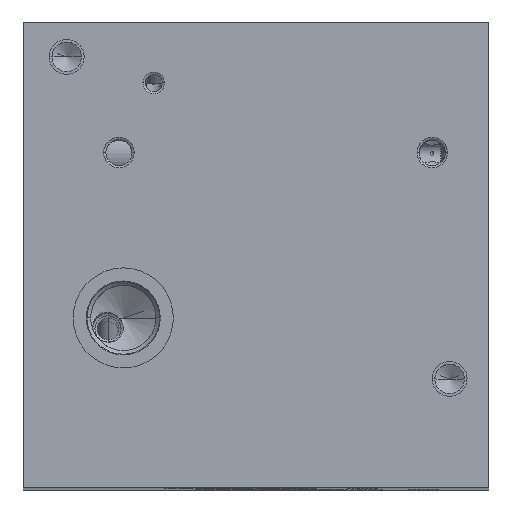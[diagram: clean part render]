
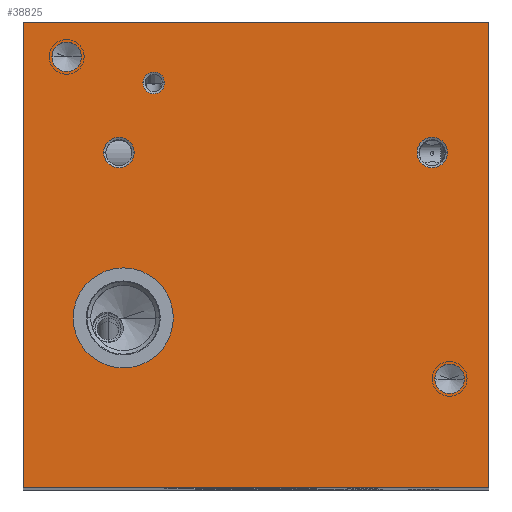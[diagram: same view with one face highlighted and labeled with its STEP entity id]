
A CAD part, top view. The second image highlights one B-rep face of the part: STEP entity #38825.
In plain terms, the highlighted planar face has unit normal (0, 0, 1).
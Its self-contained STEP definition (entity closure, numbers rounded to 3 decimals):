
#1391=DIRECTION('',(1.,0.,0.));
#1392=VECTOR('',#1391,107.);
#1393=CARTESIAN_POINT('',(0.,0.,310.));
#1394=LINE('',#1393,#1392);
#1398=DIRECTION('',(0.,-1.,0.));
#1399=VECTOR('',#1398,107.);
#1400=CARTESIAN_POINT('',(0.,107.,310.));
#1401=LINE('',#1400,#1399);
#1405=DIRECTION('',(-1.,0.,0.));
#1406=VECTOR('',#1405,107.);
#1407=CARTESIAN_POINT('',(107.,107.,310.));
#1408=LINE('',#1407,#1406);
#1412=DIRECTION('',(0.,1.,0.));
#1413=VECTOR('',#1412,107.);
#1414=CARTESIAN_POINT('',(107.,0.,310.));
#1415=LINE('',#1414,#1413);
#1419=CARTESIAN_POINT('',(94.,77.,310.));
#1420=DIRECTION('',(0.,0.,1.));
#1421=DIRECTION('',(-1.,0.,0.));
#1422=AXIS2_PLACEMENT_3D('',#1419,#1420,#1421);
#1427=CARTESIAN_POINT('',(94.,77.,310.));
#1428=DIRECTION('',(0.,0.,1.));
#1429=DIRECTION('',(1.,0.,0.));
#1430=AXIS2_PLACEMENT_3D('',#1427,#1428,#1429);
#1435=CARTESIAN_POINT('',(22.,77.,310.));
#1436=DIRECTION('',(0.,0.,1.));
#1437=DIRECTION('',(-1.,0.,0.));
#1438=AXIS2_PLACEMENT_3D('',#1435,#1436,#1437);
#1443=CARTESIAN_POINT('',(22.,77.,310.));
#1444=DIRECTION('',(0.,0.,1.));
#1445=DIRECTION('',(1.,0.,0.));
#1446=AXIS2_PLACEMENT_3D('',#1443,#1444,#1445);
#1451=CARTESIAN_POINT('',(98.,25.,310.));
#1452=DIRECTION('',(0.,0.,1.));
#1453=DIRECTION('',(-1.,0.,0.));
#1454=AXIS2_PLACEMENT_3D('',#1451,#1452,#1453);
#1459=CARTESIAN_POINT('',(98.,25.,310.));
#1460=DIRECTION('',(0.,0.,1.));
#1461=DIRECTION('',(1.,0.,0.));
#1462=AXIS2_PLACEMENT_3D('',#1459,#1460,#1461);
#1467=CARTESIAN_POINT('',(10.,99.,310.));
#1468=DIRECTION('',(0.,0.,1.));
#1469=DIRECTION('',(-1.,0.,0.));
#1470=AXIS2_PLACEMENT_3D('',#1467,#1468,#1469);
#1475=CARTESIAN_POINT('',(10.,99.,310.));
#1476=DIRECTION('',(0.,0.,1.));
#1477=DIRECTION('',(1.,0.,0.));
#1478=AXIS2_PLACEMENT_3D('',#1475,#1476,#1477);
#1483=CARTESIAN_POINT('',(23.,39.,310.));
#1484=DIRECTION('',(0.,0.,-1.));
#1485=DIRECTION('',(-1.,0.,0.));
#1486=AXIS2_PLACEMENT_3D('',#1483,#1484,#1485);
#1491=CARTESIAN_POINT('',(23.,39.,310.));
#1492=DIRECTION('',(0.,0.,-1.));
#1493=DIRECTION('',(1.,0.,0.));
#1494=AXIS2_PLACEMENT_3D('',#1491,#1492,#1493);
#1499=CARTESIAN_POINT('',(30.,93.,310.));
#1500=DIRECTION('',(0.,0.,1.));
#1501=DIRECTION('',(-1.,0.,0.));
#1502=AXIS2_PLACEMENT_3D('',#1499,#1500,#1501);
#1507=CARTESIAN_POINT('',(30.,93.,310.));
#1508=DIRECTION('',(0.,0.,1.));
#1509=DIRECTION('',(1.,0.,0.));
#1510=AXIS2_PLACEMENT_3D('',#1507,#1508,#1509);
#35534=CARTESIAN_POINT('',(0.,0.,310.));
#35535=CARTESIAN_POINT('',(107.,0.,310.));
#35536=VERTEX_POINT('',#35534);
#35537=VERTEX_POINT('',#35535);
#35538=CARTESIAN_POINT('',(107.,107.,310.));
#35539=VERTEX_POINT('',#35538);
#35540=CARTESIAN_POINT('',(0.,107.,310.));
#35541=VERTEX_POINT('',#35540);
#36982=CARTESIAN_POINT('',(90.5,77.,310.));
#36983=VERTEX_POINT('',#36982);
#36984=CARTESIAN_POINT('',(97.5,77.,310.));
#36985=VERTEX_POINT('',#36984);
#37097=CARTESIAN_POINT('',(18.5,77.,310.));
#37098=VERTEX_POINT('',#37097);
#37099=CARTESIAN_POINT('',(25.5,77.,310.));
#37100=VERTEX_POINT('',#37099);
#37603=CARTESIAN_POINT('',(94.6,25.,310.));
#37604=VERTEX_POINT('',#37603);
#37605=CARTESIAN_POINT('',(101.4,25.,310.));
#37606=VERTEX_POINT('',#37605);
#38022=CARTESIAN_POINT('',(11.5,39.,310.));
#38023=VERTEX_POINT('',#38022);
#38024=CARTESIAN_POINT('',(34.5,39.,310.));
#38025=VERTEX_POINT('',#38024);
#38056=CARTESIAN_POINT('',(6.6,99.,310.));
#38057=CARTESIAN_POINT('',(13.4,99.,310.));
#38058=VERTEX_POINT('',#38056);
#38059=VERTEX_POINT('',#38057);
#38111=CARTESIAN_POINT('',(27.5,93.,310.));
#38112=VERTEX_POINT('',#38111);
#38113=CARTESIAN_POINT('',(32.5,93.,310.));
#38114=VERTEX_POINT('',#38113);
#38778=CARTESIAN_POINT('',(0.,0.,310.));
#38779=DIRECTION('',(0.,0.,1.));
#38780=DIRECTION('',(1.,0.,0.));
#38781=AXIS2_PLACEMENT_3D('',#38778,#38779,#38780);
#38782=PLANE('',#38781);
#38783=ORIENTED_EDGE('',*,*,#38282,.F.);
#38784=ORIENTED_EDGE('',*,*,#38411,.F.);
#38785=ORIENTED_EDGE('',*,*,#38521,.F.);
#38786=ORIENTED_EDGE('',*,*,#38652,.F.);
#38787=EDGE_LOOP('',(#38783,#38784,#38785,#38786));
#38788=FACE_OUTER_BOUND('',#38787,.F.);
#38790=ORIENTED_EDGE('',*,*,#38789,.T.);
#38792=ORIENTED_EDGE('',*,*,#38791,.T.);
#38793=EDGE_LOOP('',(#38790,#38792));
#38794=FACE_BOUND('',#38793,.F.);
#38796=ORIENTED_EDGE('',*,*,#38795,.T.);
#38798=ORIENTED_EDGE('',*,*,#38797,.T.);
#38799=EDGE_LOOP('',(#38796,#38798));
#38800=FACE_BOUND('',#38799,.F.);
#38802=ORIENTED_EDGE('',*,*,#38801,.T.);
#38804=ORIENTED_EDGE('',*,*,#38803,.T.);
#38805=EDGE_LOOP('',(#38802,#38804));
#38806=FACE_BOUND('',#38805,.F.);
#38808=ORIENTED_EDGE('',*,*,#38807,.T.);
#38810=ORIENTED_EDGE('',*,*,#38809,.T.);
#38811=EDGE_LOOP('',(#38808,#38810));
#38812=FACE_BOUND('',#38811,.F.);
#38814=ORIENTED_EDGE('',*,*,#38813,.F.);
#38816=ORIENTED_EDGE('',*,*,#38815,.F.);
#38817=EDGE_LOOP('',(#38814,#38816));
#38818=FACE_BOUND('',#38817,.F.);
#38820=ORIENTED_EDGE('',*,*,#38819,.T.);
#38822=ORIENTED_EDGE('',*,*,#38821,.T.);
#38823=EDGE_LOOP('',(#38820,#38822));
#38824=FACE_BOUND('',#38823,.F.);
#1423=CIRCLE('',#1422,3.5);
#1431=CIRCLE('',#1430,3.5);
#1439=CIRCLE('',#1438,3.5);
#1447=CIRCLE('',#1446,3.5);
#1455=CIRCLE('',#1454,3.4);
#1463=CIRCLE('',#1462,3.4);
#1471=CIRCLE('',#1470,3.4);
#1479=CIRCLE('',#1478,3.4);
#1487=CIRCLE('',#1486,11.5);
#1495=CIRCLE('',#1494,11.5);
#1503=CIRCLE('',#1502,2.5);
#1511=CIRCLE('',#1510,2.5);
#38282=EDGE_CURVE('',#35536,#35537,#1394,.T.);
#38411=EDGE_CURVE('',#35541,#35536,#1401,.T.);
#38521=EDGE_CURVE('',#35539,#35541,#1408,.T.);
#38652=EDGE_CURVE('',#35537,#35539,#1415,.T.);
#38789=EDGE_CURVE('',#36983,#36985,#1423,.T.);
#38791=EDGE_CURVE('',#36985,#36983,#1431,.T.);
#38795=EDGE_CURVE('',#37098,#37100,#1439,.T.);
#38797=EDGE_CURVE('',#37100,#37098,#1447,.T.);
#38801=EDGE_CURVE('',#37604,#37606,#1455,.T.);
#38803=EDGE_CURVE('',#37606,#37604,#1463,.T.);
#38807=EDGE_CURVE('',#38058,#38059,#1471,.T.);
#38809=EDGE_CURVE('',#38059,#38058,#1479,.T.);
#38813=EDGE_CURVE('',#38023,#38025,#1487,.T.);
#38815=EDGE_CURVE('',#38025,#38023,#1495,.T.);
#38819=EDGE_CURVE('',#38112,#38114,#1503,.T.);
#38821=EDGE_CURVE('',#38114,#38112,#1511,.T.);
#38825=ADVANCED_FACE('',(#38788,#38794,#38800,#38806,#38812,#38818,#38824),
#38782,.T.);
